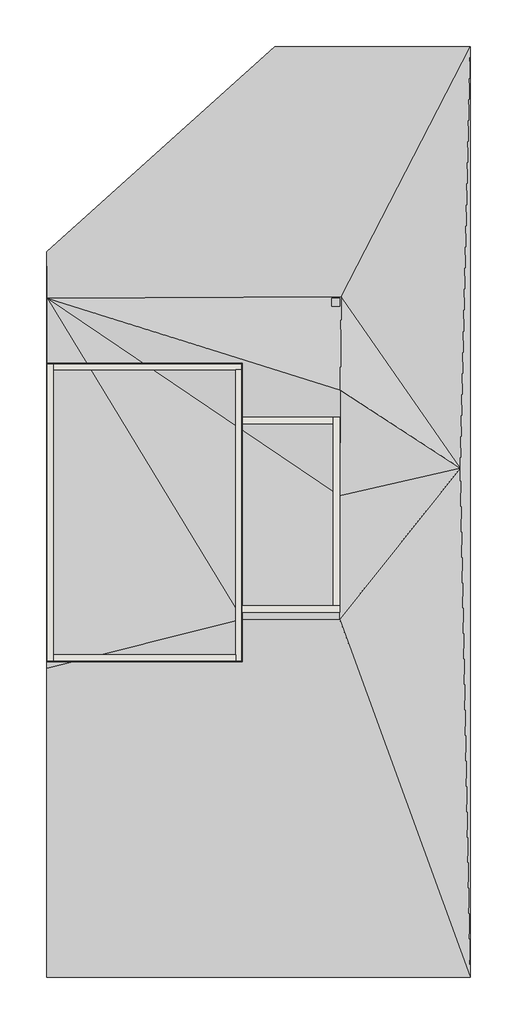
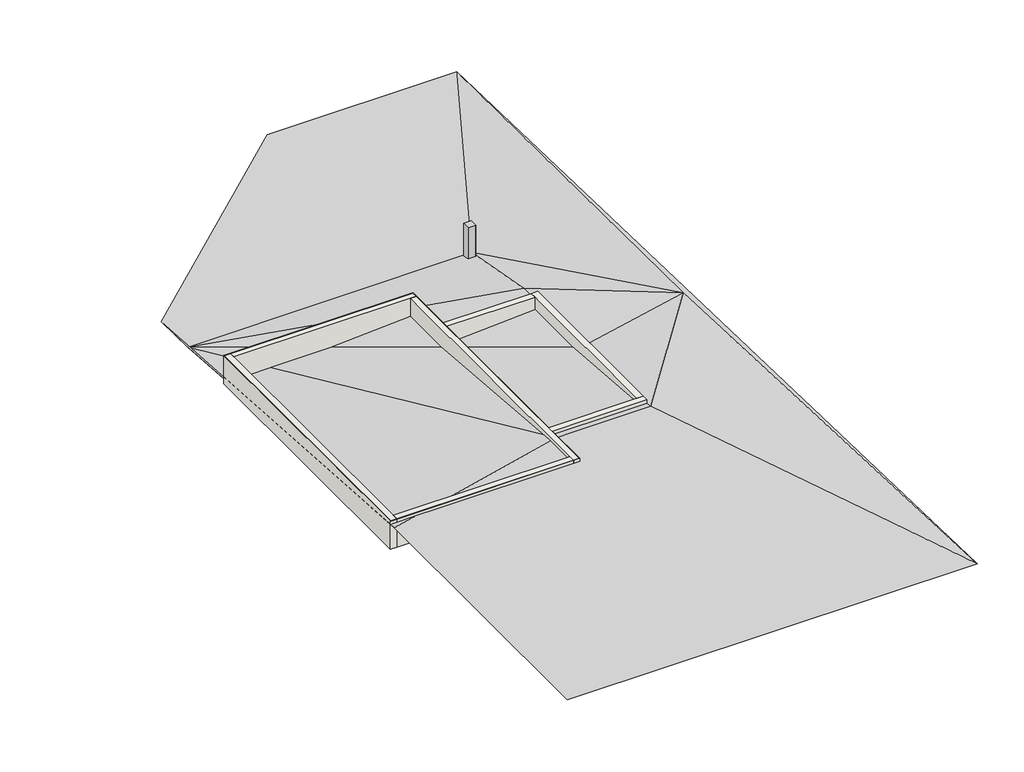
# One storey: 7 walls, 1 column, 1 proxy.
"""IFC4 building model written with IfcOpenShell, lengths in millimetres."""

from ifc_helpers import new_model, si_unit, frame, origin, place, context, project, spatial, polyline, outline, extrude, faceted_brep, triangles, transform, mapped, element, save
from components import column_250_x_250_77015084

model = new_model("IFC4")

# Units and contexts
model_context = context("Model", 3, world=origin())
ifc_project = project(units=[si_unit("LENGTHUNIT", "METRE", prefix="MILLI")], contexts=[model_context])

# Site, building, storey
site = spatial("IfcSite", under=ifc_project)
building = spatial("IfcBuilding", under=site)
storey = spatial("IfcBuildingStorey", under=building, Name="soubassement", Elevation=-1100.0)

# Proxy
placement = place(None, origin())
element("IfcBuildingElementProxy", 1, Name="Building Element Proxy", at=placement, inside=storey, context=model_context, shape_type="Tessellation", body=[
    triangles([(-8799.0914017, -7558.5828186, -250.0000019), (-8799.0914017, -17055.0950226, -250.0000019), (4200.9084068, -17055.0950226, -250.0000019), (200.9083945, -6058.5825165, -250.0000019), (-2799.0916466, -6058.5825165, -250.0000019), (200.9083945, -2272.8111248, -550.0000042), (3899.6654572, -1427.4679562, -550.0000042), (220.908391, 960.417322, -550.0000042), (241.5176345, 3832.0265625, -1100.0000084), (4200.9084068, 11515.3366516, -1100.0000084), (-8799.0914017, 5212.5079971, -1100.0000084), (-8779.0914597, 3797.4173378, -1100.0000084), (-1799.0916389, 11515.3366516, -1100.0000084)], [[2, 5, 1], [5, 2, 3], [1, 5, 12], [6, 8, 12], [13, 11, 9], [12, 11, 1], [12, 9, 11], [12, 5, 6], [7, 6, 4], [4, 6, 5], [3, 4, 5], [7, 4, 3], [8, 9, 12], [9, 8, 7], [7, 10, 9], [10, 7, 3], [8, 6, 7], [9, 10, 13]], closed=False),
])

# Column
column_250_x_250_shape = column_250_x_250_77015084(model_context)
element("IfcColumn", 2, ObjectType="Poteau précoulé - Carré : 250 x 250", at=placement, inside=storey, context=model_context, shape_type="MappedRepresentation", body=[
    mapped(column_250_x_250_shape, transform((105.9083966, 3646.4173476, 0.0), x_axis=(1.0, 0.0, 0.0), y_axis=(0.0, 1.0, 0.0), z_axis=(0.0, 0.0, 1.0))),
])

# Walls
element("IfcWall", 3, ObjectType="Ext. Parpaing 2 sans enduit", at=placement, inside=storey, context=model_context, shape_type="Brep", body=[
    faceted_brep([(-8599.0916034, -7358.5826524, -1100.0), (-8599.0916034, -7158.5826524, -1100.0), (-8599.0916034, 1591.4173476, -1100.0), (-8599.0916034, 1791.4173476, -1100.0), (-8599.0916034, 1791.4173476, -150.0), (-8599.0916034, 1781.4173476, -150.0), (-8599.0916034, 1591.4173476, -150.0), (-8599.0916034, -7158.5826524, -150.0), (-8599.0916034, -7348.5826524, -150.0), (-8599.0916034, -7358.5826524, -150.0), (-8799.0916034, -7358.5826524, -1100.0), (-8799.0916034, -7358.5826524, -150.0), (-8799.0916034, -7348.5826524, -150.0), (-8799.0916034, 1781.4173476, -150.0), (-8799.0916034, 1791.4173476, -150.0), (-8799.0916034, 1791.4173476, -1100.0), (-8789.0916034, 1791.4173476, -150.0), (-8789.0916034, -7358.5826524, -150.0), (-8789.0916034, 1781.4173476, -150.0), (-8789.0916034, -7348.5826524, -150.0)], [[[0, 1, 2, 3, 4, 5, 6, 7, 8, 9]], [[10, 11, 12, 13, 14, 15]], [[3, 2, 1, 0, 10, 15]], [[4, 3, 15, 14, 16]], [[0, 9, 17, 11, 10]], [[18, 13, 12, 19]], [[9, 8, 19, 17]], [[19, 12, 11, 17]], [[5, 4, 16, 18]], [[16, 14, 13, 18]], [[8, 7, 6, 5, 18, 19]]]),
])
element("IfcWall", 4, ObjectType="Ext. Parpaing 2 sans enduit", at=placement, inside=storey, context=model_context, shape_type="Brep", body=[
    faceted_brep([(-8599.0916034, 1591.4173476, -1100.0), (-2999.0916034, 1591.4173476, -1100.0), (-2799.0916034, 1591.4173476, -1100.0), (-2799.0916034, 1591.4173476, -150.0), (-2809.0916034, 1591.4173476, -150.0), (-2999.0916034, 1591.4173476, -150.0), (-8599.0916034, 1591.4173476, -150.0), (-8599.0916034, 1791.4173476, -1100.0), (-8599.0916034, 1791.4173476, -150.0), (-2809.0916034, 1791.4173476, -150.0), (-2799.0916034, 1791.4173476, -150.0), (-2799.0916034, 1791.4173476, -1100.0), (-8599.0916034, 1781.4173476, -150.0), (-2799.0916034, 1781.4173476, -150.0), (-2809.0916034, 1781.4173476, -150.0)], [[[0, 1, 2, 3, 4, 5, 6]], [[7, 8, 9, 10, 11]], [[2, 1, 0, 7, 11]], [[0, 6, 12, 8, 7]], [[3, 2, 11, 10, 13]], [[4, 3, 13, 14]], [[9, 8, 12, 14]], [[13, 10, 9, 14]], [[6, 5, 4, 14, 12]]]),
])
element("IfcWall", 5, ObjectType="Ext. Parpaing 2 sans enduit", at=placement, inside=storey, context=model_context, shape_type="Brep", body=[
    faceted_brep([(-2999.0916034, 1591.4173476, -1100.0), (-2999.0916034, -7158.5826524, -1100.0), (-2999.0916034, -7358.5826524, -1100.0), (-2999.0916034, -7358.5826524, -150.0), (-2999.0916034, -7348.5826524, -150.0), (-2999.0916034, -7158.5826524, -150.0), (-2999.0916034, 1591.4173476, -150.0), (-2799.0916034, 1591.4173476, -1100.0), (-2799.0916034, 1591.4173476, -150.0), (-2799.0916034, 136.4173476, -150.0), (-2799.0916034, -63.5826524, -150.0), (-2799.0916034, -5653.5826524, -150.0), (-2799.0916034, -5853.5826524, -150.0), (-2799.0916034, -7348.5826524, -150.0), (-2799.0916034, -7358.5826524, -150.0), (-2799.0916034, -7358.5826524, -1100.0), (-2799.0916034, -5853.5826524, -1100.0), (-2799.0916034, -5653.5826524, -1100.0), (-2799.0916034, -63.5826524, -1100.0), (-2799.0916034, 136.4173476, -1100.0), (-2809.0916034, 1591.4173476, -150.0), (-2809.0916034, -7358.5826524, -150.0), (-2809.0916034, -7348.5826524, -150.0)], [[[0, 1, 2, 3, 4, 5, 6]], [[7, 8, 9, 10, 11, 12, 13, 14, 15, 16, 17, 18, 19]], [[2, 1, 0, 7, 19, 18, 17, 16, 15]], [[0, 6, 20, 8, 7]], [[3, 2, 15, 14, 21]], [[4, 3, 21, 22]], [[13, 12, 11, 10, 9, 8, 20, 22]], [[21, 14, 13, 22]], [[6, 5, 4, 22, 20]]]),
])
element("IfcWall", 6, ObjectType="Ext. Parpaing 2 sans enduit", at=placement, inside=storey, context=model_context, shape_type="SweptSolid", body=[
    extrude(outline(polyline([(-7158.5826524, -150.0), (-7158.5826524, -1100.0), (-7358.5826524, -1100.0), (-7358.5826524, -150.0), (-7348.5826524, -150.0), (-7158.5826524, -150.0)])), frame((-8599.0916034, 0.0, 0.0), z_axis=(1.0, 0.0, 0.0), x_axis=(0.0, 1.0, 0.0)), (0.0, 0.0, 1.0), 5600.0),
])
element("IfcWall", 7, ObjectType="Ext. Parpaing 2 sans enduit", at=placement, inside=storey, context=model_context, shape_type="Brep", body=[
    faceted_brep([(195.9083966, -5653.5826524, -1100.0), (-4.0916034, -5653.5826524, -1100.0), (-2799.0916034, -5653.5826524, -1100.0), (-2799.0916034, -5653.5826524, -150.0), (-4.0916034, -5653.5826524, -150.0), (195.9083966, -5653.5826524, -150.0), (195.9083966, -5853.5826524, -1100.0), (195.9083966, -5853.5826524, -150.0), (-2799.0916034, -5853.5826524, -150.0), (-2799.0916034, -5853.5826524, -1100.0)], [[[0, 1, 2, 3, 4, 5]], [[6, 7, 8, 9]], [[2, 1, 0, 6, 9]], [[5, 4, 3, 8, 7]], [[3, 2, 9, 8]], [[0, 5, 7, 6]]]),
])
element("IfcWall", 8, ObjectType="Ext. Parpaing 2 sans enduit", at=placement, inside=storey, context=model_context, shape_type="Brep", body=[
    faceted_brep([(195.9083966, -5653.5826524, -1100.0), (195.9083966, 136.4173476, -1100.0), (195.9083966, 136.4173476, -150.0), (195.9083966, -5653.5826524, -150.0), (-4.0916034, -5653.5826524, -1100.0), (-4.0916034, -5653.5826524, -150.0), (-4.0916034, -63.5826524, -150.0), (-4.0916034, 136.4173476, -150.0), (-4.0916034, 136.4173476, -1100.0), (-4.0916034, -63.5826524, -1100.0)], [[[0, 1, 2, 3]], [[4, 5, 6, 7, 8, 9]], [[1, 0, 4, 9, 8]], [[3, 2, 7, 6, 5]], [[0, 3, 5, 4]], [[2, 1, 8, 7]]]),
])
element("IfcWall", 9, ObjectType="Ext. Parpaing 2 sans enduit", at=placement, inside=storey, context=model_context, shape_type="SweptSolid", body=[
    extrude(outline(polyline([(-2799.0916034, 136.4173476), (-4.0916034, 136.4173476), (-4.0916034, -63.5826524), (-2799.0916034, -63.5826524), (-2799.0916034, 136.4173476)])), frame((0.0, 0.0, -1100.0), z_axis=(0.0, 0.0, 1.0), x_axis=(1.0, 0.0, 0.0)), (0.0, 0.0, 1.0), 950.0),
])

save(model, "model.ifc")
